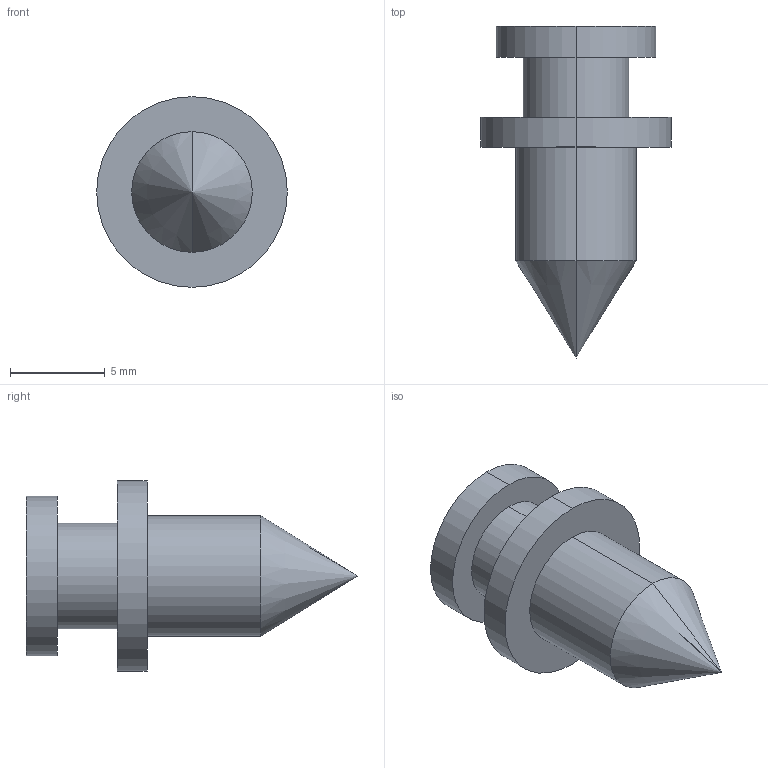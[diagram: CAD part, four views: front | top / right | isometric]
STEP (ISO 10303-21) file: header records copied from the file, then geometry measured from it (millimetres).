
FILE_DESCRIPTION (( 'STEP AP214' ), '1' );
FILE_NAME ('6043_V01_REF_PRT_SH_SCR.STEP', '2025-10-16T13:16:24', ( '' ), ( '' ), 'SwSTEP 2.0', 'SolidWorks 2025', '' );
FILE_SCHEMA (( 'AUTOMOTIVE_DESIGN' ));
Length unit declared in the file: inch
Products named in the file (1): 6043_V01_REF_PRT_SH_SCR
Bounding box: 10.03 x 17.47 x 10.03 mm (x, y, z)
Volume: 534.1 mm3; surface area: 515.7 mm2
Topology: 1 solids, 1 shells, 14 faces, 28 edges, 17 vertices
Faces by surface type: cylinder 8, plane 4, cone 2
Entity records: 385 total; most frequent: DIRECTION 72, CARTESIAN_POINT 58, ORIENTED_EDGE 52, AXIS2_PLACEMENT_3D 31, EDGE_CURVE 26, VERTEX_POINT 17, EDGE_LOOP 17, CIRCLE 16
